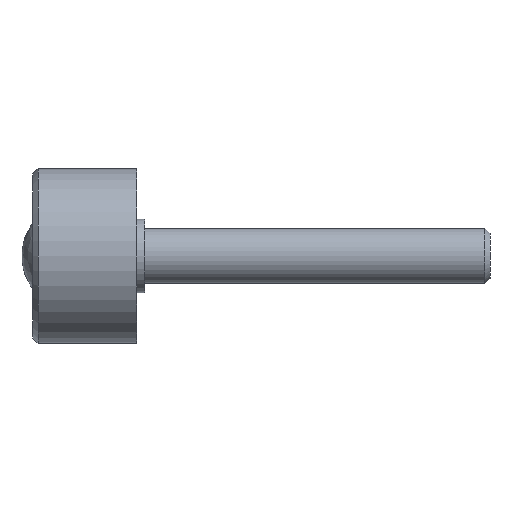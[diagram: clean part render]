
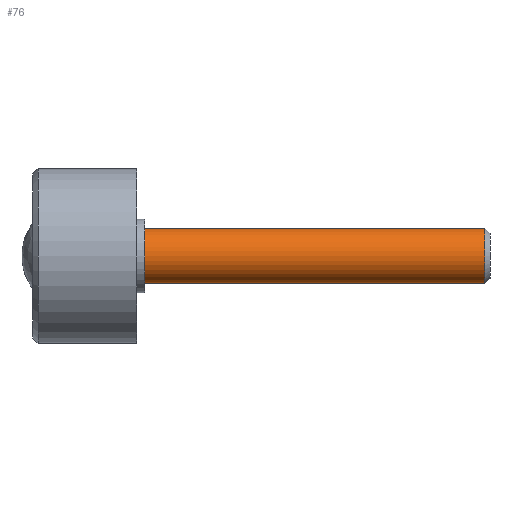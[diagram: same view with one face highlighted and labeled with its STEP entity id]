
A CAD part, left-side view. The second image highlights one B-rep face of the part: STEP entity #76.
In plain terms, the highlighted cylindrical face has radius 5 mm (diameter 10 mm), a full revolution.
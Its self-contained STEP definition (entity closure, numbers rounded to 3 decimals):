
#76 = ADVANCED_FACE( '', ( #93, #94 ), #95, .T. );
#93 = FACE_OUTER_BOUND( '', #134, .T. );
#94 = FACE_OUTER_BOUND( '', #135, .T. );
#95 = CYLINDRICAL_SURFACE( '', #136, 5. );
#134 = EDGE_LOOP( '', ( #177 ) );
#135 = EDGE_LOOP( '', ( #178 ) );
#136 = AXIS2_PLACEMENT_3D( '', #179, #180, #181 );
#177 = ORIENTED_EDGE( '', *, *, #242, .F. );
#178 = ORIENTED_EDGE( '', *, *, #243, .T. );
#179 = CARTESIAN_POINT( '', ( 0., -63., 0. ) );
#180 = DIRECTION( '', ( 0., 1., 0. ) );
#181 = DIRECTION( '', ( 0., 0., -1. ) );
#242 = EDGE_CURVE( '', #257, #257, #258, .T. );
#243 = EDGE_CURVE( '', #259, #259, #260, .T. );
#257 = VERTEX_POINT( '', #283 );
#258 = CIRCLE( '', #284, 5. );
#259 = VERTEX_POINT( '', #285 );
#260 = CIRCLE( '', #286, 5. );
#283 = CARTESIAN_POINT( '', ( 0., -62.08, -5. ) );
#284 = AXIS2_PLACEMENT_3D( '', #375, #376, #377 );
#285 = CARTESIAN_POINT( '', ( 0., 0., -5. ) );
#286 = AXIS2_PLACEMENT_3D( '', #378, #379, #380 );
#375 = CARTESIAN_POINT( '', ( 0., -62.08, 0. ) );
#376 = DIRECTION( '', ( 0., -1., 0. ) );
#377 = DIRECTION( '', ( 0., 0., -1. ) );
#378 = CARTESIAN_POINT( '', ( 0., 0., 0. ) );
#379 = DIRECTION( '', ( 0., -1., 0. ) );
#380 = DIRECTION( '', ( 0., 0., -1. ) );
